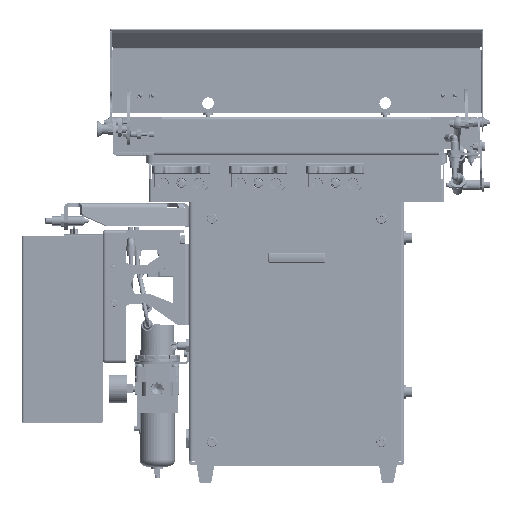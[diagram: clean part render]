
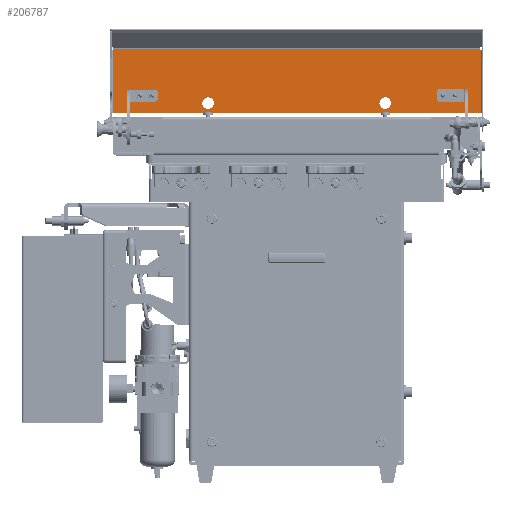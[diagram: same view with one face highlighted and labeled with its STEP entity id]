
A CAD part, top view. The second image highlights one B-rep face of the part: STEP entity #206787.
In plain terms, the highlighted planar face has unit normal (0, 0, 1).
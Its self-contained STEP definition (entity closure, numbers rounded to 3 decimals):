
#26695=DIRECTION('',(0.,-1.,0.));
#26696=VECTOR('',#26695,81.572);
#26697=CARTESIAN_POINT('',(-239.,363.572,180.5));
#26698=LINE('',#26697,#26696);
#26712=CARTESIAN_POINT('',(-239.,364.572,180.5));
#26713=DIRECTION('',(0.,0.,-1.));
#26714=DIRECTION('',(1.,0.,0.));
#26715=AXIS2_PLACEMENT_3D('',#26712,#26713,#26714);
#26793=DIRECTION('',(1.,0.,0.));
#26794=VECTOR('',#26793,478.);
#26795=CARTESIAN_POINT('',(-239.,282.,180.5));
#26796=LINE('',#26795,#26794);
#26797=DIRECTION('',(0.,-1.,0.));
#26798=VECTOR('',#26797,1.185);
#26799=CARTESIAN_POINT('',(-238.,365.757,180.5));
#26800=LINE('',#26799,#26798);
#26801=DIRECTION('',(0.,-1.,0.));
#26802=VECTOR('',#26801,1.185);
#26803=CARTESIAN_POINT('',(238.,365.757,180.5));
#26804=LINE('',#26803,#26802);
#26805=CARTESIAN_POINT('',(115.,295.,180.5));
#26806=DIRECTION('',(0.,0.,-1.));
#26807=DIRECTION('',(0.,-1.,0.));
#26808=AXIS2_PLACEMENT_3D('',#26805,#26806,#26807);
#26810=CARTESIAN_POINT('',(115.,295.,180.5));
#26811=DIRECTION('',(0.,0.,-1.));
#26812=DIRECTION('',(0.,1.,0.));
#26813=AXIS2_PLACEMENT_3D('',#26810,#26811,#26812);
#26815=CARTESIAN_POINT('',(-115.,295.,180.5));
#26816=DIRECTION('',(0.,0.,-1.));
#26817=DIRECTION('',(0.,-1.,0.));
#26818=AXIS2_PLACEMENT_3D('',#26815,#26816,#26817);
#26820=CARTESIAN_POINT('',(-115.,295.,180.5));
#26821=DIRECTION('',(0.,0.,-1.));
#26822=DIRECTION('',(0.,1.,0.));
#26823=AXIS2_PLACEMENT_3D('',#26820,#26821,#26822);
#26825=DIRECTION('',(1.,0.,0.));
#26826=VECTOR('',#26825,31.);
#26827=CARTESIAN_POINT('',(-215.,312.,180.5));
#26828=LINE('',#26827,#26826);
#26829=DIRECTION('',(0.,1.,0.));
#26830=VECTOR('',#26829,15.);
#26831=CARTESIAN_POINT('',(-215.,297.,180.5));
#26832=LINE('',#26831,#26830);
#26833=DIRECTION('',(-1.,0.,0.));
#26834=VECTOR('',#26833,2.68);
#26835=CARTESIAN_POINT('',(-212.32,297.,180.5));
#26836=LINE('',#26835,#26834);
#26837=DIRECTION('',(1.,0.,0.));
#26838=VECTOR('',#26837,6.);
#26839=CARTESIAN_POINT('',(-212.32,297.,180.5));
#26840=LINE('',#26839,#26838);
#26841=DIRECTION('',(-1.,0.,0.));
#26842=VECTOR('',#26841,22.32);
#26843=CARTESIAN_POINT('',(-184.,297.,180.5));
#26844=LINE('',#26843,#26842);
#26845=CARTESIAN_POINT('',(-184.,301.,180.5));
#26846=DIRECTION('',(0.,0.,-1.));
#26847=DIRECTION('',(1.,0.,0.));
#26848=AXIS2_PLACEMENT_3D('',#26845,#26846,#26847);
#26850=DIRECTION('',(0.,-1.,0.));
#26851=VECTOR('',#26850,7.);
#26852=CARTESIAN_POINT('',(-180.,308.,180.5));
#26853=LINE('',#26852,#26851);
#26854=CARTESIAN_POINT('',(-184.,308.,180.5));
#26855=DIRECTION('',(0.,0.,-1.));
#26856=DIRECTION('',(0.,1.,0.));
#26857=AXIS2_PLACEMENT_3D('',#26854,#26855,#26856);
#26859=DIRECTION('',(-1.,0.,0.));
#26860=VECTOR('',#26859,20.203);
#26861=CARTESIAN_POINT('',(205.703,296.,180.5));
#26862=LINE('',#26861,#26860);
#26863=DIRECTION('',(-1.,0.,0.));
#26864=VECTOR('',#26863,9.117);
#26865=CARTESIAN_POINT('',(214.82,296.,180.5));
#26866=LINE('',#26865,#26864);
#26867=DIRECTION('',(1.,0.,0.));
#26868=VECTOR('',#26867,2.68);
#26869=CARTESIAN_POINT('',(214.82,296.,180.5));
#26870=LINE('',#26869,#26868);
#26871=DIRECTION('',(0.,-1.,0.));
#26872=VECTOR('',#26871,17.);
#26873=CARTESIAN_POINT('',(217.5,313.,180.5));
#26874=LINE('',#26873,#26872);
#26875=DIRECTION('',(1.,0.,0.));
#26876=VECTOR('',#26875,32.);
#26877=CARTESIAN_POINT('',(185.5,313.,180.5));
#26878=LINE('',#26877,#26876);
#26879=CARTESIAN_POINT('',(185.5,310.,180.5));
#26880=DIRECTION('',(0.,0.,-1.));
#26881=DIRECTION('',(-1.,0.,0.));
#26882=AXIS2_PLACEMENT_3D('',#26879,#26880,#26881);
#26884=DIRECTION('',(0.,1.,0.));
#26885=VECTOR('',#26884,11.);
#26886=CARTESIAN_POINT('',(182.5,299.,180.5));
#26887=LINE('',#26886,#26885);
#26888=CARTESIAN_POINT('',(185.5,299.,180.5));
#26889=DIRECTION('',(0.,0.,-1.));
#26890=DIRECTION('',(0.,-1.,0.));
#26891=AXIS2_PLACEMENT_3D('',#26888,#26889,#26890);
#26996=CARTESIAN_POINT('',(239.,364.572,180.5));
#26997=DIRECTION('',(0.,0.,-1.));
#26998=DIRECTION('',(0.,-1.,0.));
#26999=AXIS2_PLACEMENT_3D('',#26996,#26997,#26998);
#27036=DIRECTION('',(0.,1.,0.));
#27037=VECTOR('',#27036,81.572);
#27038=CARTESIAN_POINT('',(239.,282.,180.5));
#27039=LINE('',#27038,#27037);
#27922=DIRECTION('',(-1.,0.,0.));
#27923=VECTOR('',#27922,476.);
#27924=CARTESIAN_POINT('',(238.,365.757,180.5));
#27925=LINE('',#27924,#27923);
#150952=CARTESIAN_POINT('',(-115.,287.5,180.5));
#150953=CARTESIAN_POINT('',(-115.,302.5,180.5));
#150954=VERTEX_POINT('',#150952);
#150955=VERTEX_POINT('',#150953);
#150956=CARTESIAN_POINT('',(115.,287.5,180.5));
#150957=CARTESIAN_POINT('',(115.,302.5,180.5));
#150958=VERTEX_POINT('',#150956);
#150959=VERTEX_POINT('',#150957);
#151057=CARTESIAN_POINT('',(238.,364.572,180.5));
#151059=VERTEX_POINT('',#151057);
#151077=CARTESIAN_POINT('',(-238.,364.572,180.5));
#151079=VERTEX_POINT('',#151077);
#151084=CARTESIAN_POINT('',(-238.,365.757,180.5));
#151085=VERTEX_POINT('',#151084);
#151092=CARTESIAN_POINT('',(238.,365.757,180.5));
#151093=VERTEX_POINT('',#151092);
#151098=CARTESIAN_POINT('',(239.,363.572,180.5));
#151099=VERTEX_POINT('',#151098);
#151102=CARTESIAN_POINT('',(-239.,363.572,180.5));
#151103=VERTEX_POINT('',#151102);
#151160=CARTESIAN_POINT('',(-239.,282.,180.5));
#151161=CARTESIAN_POINT('',(239.,282.,180.5));
#151162=VERTEX_POINT('',#151160);
#151163=VERTEX_POINT('',#151161);
#151254=CARTESIAN_POINT('',(-215.,312.,180.5));
#151255=CARTESIAN_POINT('',(-184.,312.,180.5));
#151256=VERTEX_POINT('',#151254);
#151257=VERTEX_POINT('',#151255);
#151258=CARTESIAN_POINT('',(-184.,297.,180.5));
#151259=CARTESIAN_POINT('',(-206.32,297.,180.5));
#151260=VERTEX_POINT('',#151258);
#151261=VERTEX_POINT('',#151259);
#151262=CARTESIAN_POINT('',(-180.,308.,180.5));
#151263=CARTESIAN_POINT('',(-180.,301.,180.5));
#151264=VERTEX_POINT('',#151262);
#151265=VERTEX_POINT('',#151263);
#151266=CARTESIAN_POINT('',(-212.32,297.,180.5));
#151267=CARTESIAN_POINT('',(-215.,297.,180.5));
#151268=VERTEX_POINT('',#151266);
#151269=VERTEX_POINT('',#151267);
#151310=CARTESIAN_POINT('',(205.703,296.,180.5));
#151311=CARTESIAN_POINT('',(185.5,296.,180.5));
#151312=VERTEX_POINT('',#151310);
#151313=VERTEX_POINT('',#151311);
#151314=CARTESIAN_POINT('',(185.5,313.,180.5));
#151315=CARTESIAN_POINT('',(217.5,313.,180.5));
#151316=VERTEX_POINT('',#151314);
#151317=VERTEX_POINT('',#151315);
#151318=CARTESIAN_POINT('',(182.5,299.,180.5));
#151319=CARTESIAN_POINT('',(182.5,310.,180.5));
#151320=VERTEX_POINT('',#151318);
#151321=VERTEX_POINT('',#151319);
#151322=CARTESIAN_POINT('',(214.82,296.,180.5));
#151323=CARTESIAN_POINT('',(217.5,296.,180.5));
#151324=VERTEX_POINT('',#151322);
#151325=VERTEX_POINT('',#151323);
#206719=CARTESIAN_POINT('',(0.,324.,180.5));
#206720=DIRECTION('',(0.,0.,-1.));
#206721=DIRECTION('',(1.,0.,0.));
#206722=AXIS2_PLACEMENT_3D('',#206719,#206720,#206721);
#206723=PLANE('',#206722);
#206724=ORIENTED_EDGE('',*,*,#206705,.F.);
#206725=ORIENTED_EDGE('',*,*,#206578,.F.);
#206726=ORIENTED_EDGE('',*,*,#206621,.F.);
#206728=ORIENTED_EDGE('',*,*,#206727,.F.);
#206730=ORIENTED_EDGE('',*,*,#206729,.F.);
#206732=ORIENTED_EDGE('',*,*,#206731,.T.);
#206734=ORIENTED_EDGE('',*,*,#206733,.F.);
#206736=ORIENTED_EDGE('',*,*,#206735,.F.);
#206737=EDGE_LOOP('',(#206724,#206725,#206726,#206728,#206730,#206732,#206734,
#206736));
#206738=FACE_OUTER_BOUND('',#206737,.F.);
#206740=ORIENTED_EDGE('',*,*,#206739,.F.);
#206742=ORIENTED_EDGE('',*,*,#206741,.F.);
#206743=EDGE_LOOP('',(#206740,#206742));
#206744=FACE_BOUND('',#206743,.F.);
#206746=ORIENTED_EDGE('',*,*,#206745,.F.);
#206748=ORIENTED_EDGE('',*,*,#206747,.F.);
#206749=EDGE_LOOP('',(#206746,#206748));
#206750=FACE_BOUND('',#206749,.F.);
#206752=ORIENTED_EDGE('',*,*,#206751,.F.);
#206754=ORIENTED_EDGE('',*,*,#206753,.F.);
#206756=ORIENTED_EDGE('',*,*,#206755,.F.);
#206758=ORIENTED_EDGE('',*,*,#206757,.T.);
#206760=ORIENTED_EDGE('',*,*,#206759,.F.);
#206762=ORIENTED_EDGE('',*,*,#206761,.F.);
#206764=ORIENTED_EDGE('',*,*,#206763,.F.);
#206766=ORIENTED_EDGE('',*,*,#206765,.F.);
#206767=EDGE_LOOP('',(#206752,#206754,#206756,#206758,#206760,#206762,#206764,
#206766));
#206768=FACE_BOUND('',#206767,.F.);
#206770=ORIENTED_EDGE('',*,*,#206769,.F.);
#206772=ORIENTED_EDGE('',*,*,#206771,.F.);
#206774=ORIENTED_EDGE('',*,*,#206773,.T.);
#206776=ORIENTED_EDGE('',*,*,#206775,.F.);
#206778=ORIENTED_EDGE('',*,*,#206777,.F.);
#206780=ORIENTED_EDGE('',*,*,#206779,.F.);
#206782=ORIENTED_EDGE('',*,*,#206781,.F.);
#206784=ORIENTED_EDGE('',*,*,#206783,.F.);
#206785=EDGE_LOOP('',(#206770,#206772,#206774,#206776,#206778,#206780,#206782,
#206784));
#206786=FACE_BOUND('',#206785,.F.);
#26716=CIRCLE('',#26715,1.);
#26809=CIRCLE('',#26808,7.5);
#26814=CIRCLE('',#26813,7.5);
#26819=CIRCLE('',#26818,7.5);
#26824=CIRCLE('',#26823,7.5);
#26849=CIRCLE('',#26848,4.);
#26858=CIRCLE('',#26857,4.);
#26883=CIRCLE('',#26882,3.);
#26892=CIRCLE('',#26891,3.);
#27000=CIRCLE('',#26999,1.);
#206578=EDGE_CURVE('',#151103,#151162,#26698,.T.);
#206621=EDGE_CURVE('',#151079,#151103,#26716,.T.);
#206705=EDGE_CURVE('',#151162,#151163,#26796,.T.);
#206727=EDGE_CURVE('',#151085,#151079,#26800,.T.);
#206729=EDGE_CURVE('',#151093,#151085,#27925,.T.);
#206731=EDGE_CURVE('',#151093,#151059,#26804,.T.);
#206733=EDGE_CURVE('',#151099,#151059,#27000,.T.);
#206735=EDGE_CURVE('',#151163,#151099,#27039,.T.);
#206739=EDGE_CURVE('',#150958,#150959,#26809,.T.);
#206741=EDGE_CURVE('',#150959,#150958,#26814,.T.);
#206745=EDGE_CURVE('',#150954,#150955,#26819,.T.);
#206747=EDGE_CURVE('',#150955,#150954,#26824,.T.);
#206751=EDGE_CURVE('',#151256,#151257,#26828,.T.);
#206753=EDGE_CURVE('',#151269,#151256,#26832,.T.);
#206755=EDGE_CURVE('',#151268,#151269,#26836,.T.);
#206757=EDGE_CURVE('',#151268,#151261,#26840,.T.);
#206759=EDGE_CURVE('',#151260,#151261,#26844,.T.);
#206761=EDGE_CURVE('',#151265,#151260,#26849,.T.);
#206763=EDGE_CURVE('',#151264,#151265,#26853,.T.);
#206765=EDGE_CURVE('',#151257,#151264,#26858,.T.);
#206769=EDGE_CURVE('',#151312,#151313,#26862,.T.);
#206771=EDGE_CURVE('',#151324,#151312,#26866,.T.);
#206773=EDGE_CURVE('',#151324,#151325,#26870,.T.);
#206775=EDGE_CURVE('',#151317,#151325,#26874,.T.);
#206777=EDGE_CURVE('',#151316,#151317,#26878,.T.);
#206779=EDGE_CURVE('',#151321,#151316,#26883,.T.);
#206781=EDGE_CURVE('',#151320,#151321,#26887,.T.);
#206783=EDGE_CURVE('',#151313,#151320,#26892,.T.);
#206787=ADVANCED_FACE('',(#206738,#206744,#206750,#206768,#206786),#206723,.F.);
